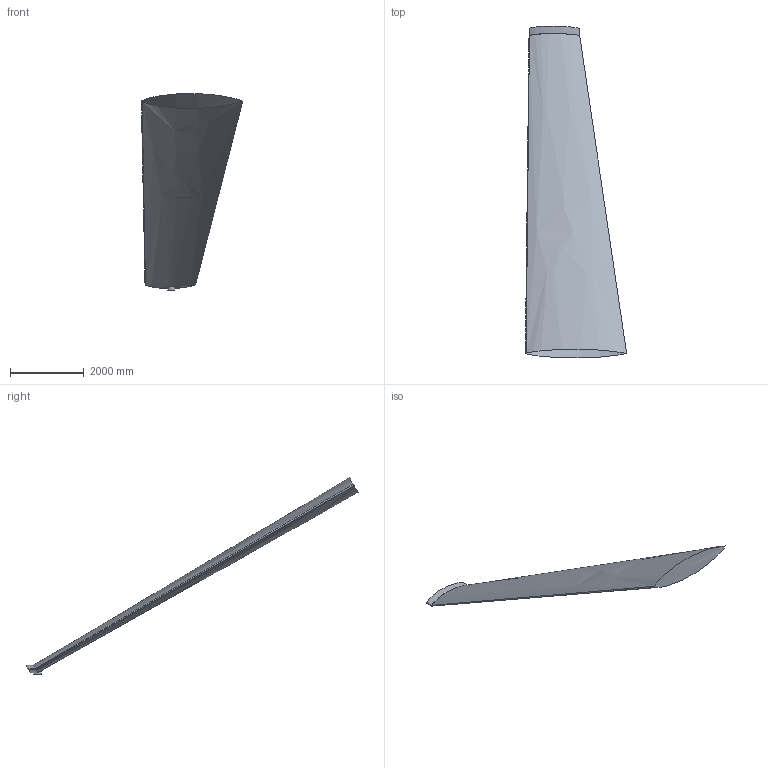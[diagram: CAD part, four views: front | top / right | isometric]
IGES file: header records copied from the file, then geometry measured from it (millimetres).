
Start section: START RECORD GO HERE.
Global section: file name: Vinge 2010-09-06a.igs; native system: DASSAULT SYSTEMES CATIA V5 R19 - www.3ds.com; preprocessor: CATIA Version 5 Release 19 SP 6 ; author: a72195; organization: DATASERVICE; date: 20110502.152130; units: millimetre
Bounding box: 2755.58 x 9034.26 x 5353.27 mm (x, y, z)
Surface area: 42925205.9 mm2 (no closed solid volume)
Topology: 0 solids, 0 shells, 8 faces, 63 edges, 325 vertices
Faces by surface type: bspline 8
